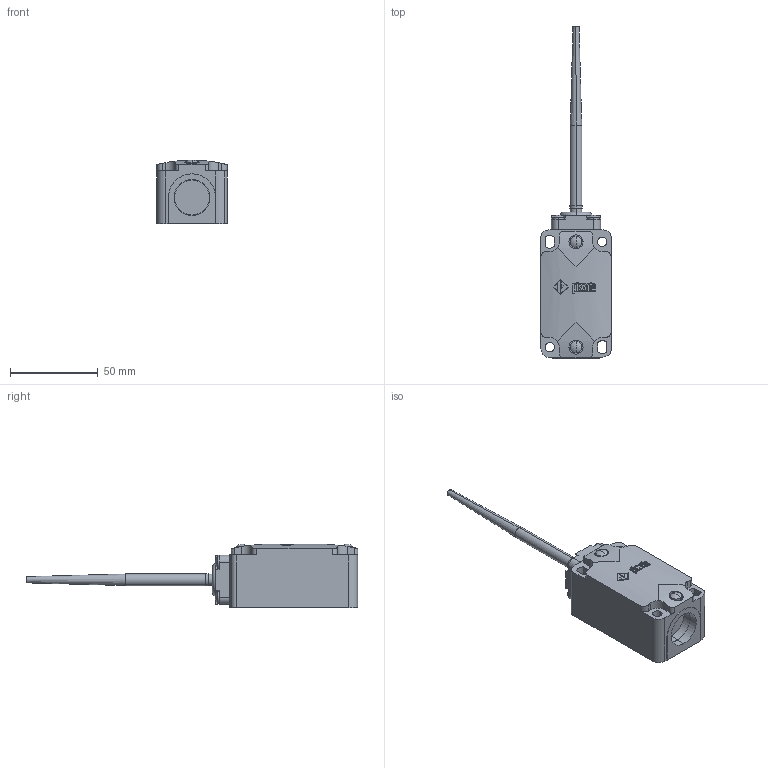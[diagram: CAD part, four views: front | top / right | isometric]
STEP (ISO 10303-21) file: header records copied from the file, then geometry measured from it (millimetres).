
FILE_DESCRIPTION (( 'STEP AP214' ), '1' );
FILE_NAME ('ZF_STEP_FD_x20_A13.step', '2014-04-10T08:59:02', ( 'utente' ), ( 'Microsoft' ), 'SwSTEP 2.0', 'SolidWorks 2013', '' );
FILE_SCHEMA (( 'AUTOMOTIVE_DESIGN' ));
Length unit declared in the file: millimetre
Products named in the file (3): ZF_STEP_VF_T20_A10; Pizzato_Custodia_FD; ZF_STEP_FD_x20_A13
Assembly tree (2 placements, depth 2):
  ZF_STEP_FD_x20_A13
    Pizzato_Custodia_FD
    ZF_STEP_VF_T20_A10
Bounding box: 40 x 189.4 x 36.3 mm (x, y, z)
Volume: 102798.3 mm3; surface area: 22273.8 mm2
Topology: 2 solids, 2 shells, 428 faces, 1128 edges, 751 vertices
Faces by surface type: plane 233, bspline 97, cylinder 80, sphere 12, torus 4, cone 2
Entity records: 18463 total; most frequent: CARTESIAN_POINT 8312, ORIENTED_EDGE 2256, DIRECTION 1758, EDGE_CURVE 1128, VERTEX_POINT 751, VECTOR 662, LINE 662, AXIS2_PLACEMENT_3D 548
